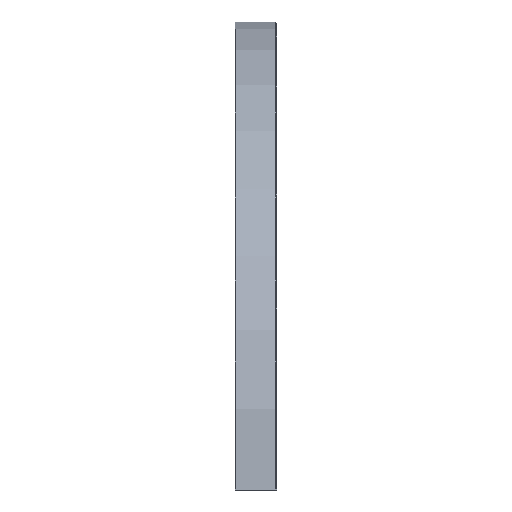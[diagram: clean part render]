
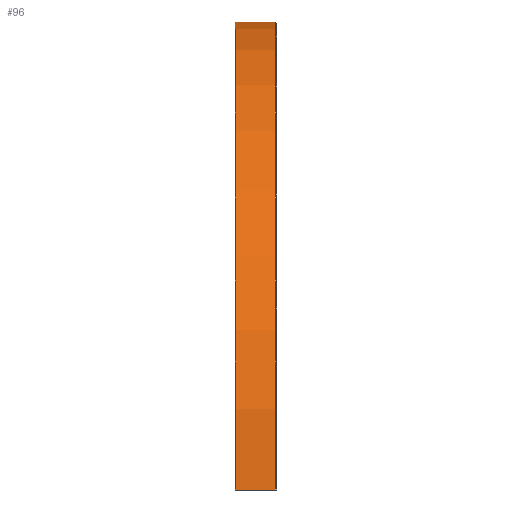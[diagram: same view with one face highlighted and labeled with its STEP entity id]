
A CAD part, left-side view. The second image highlights one B-rep face of the part: STEP entity #96.
In plain terms, the highlighted cylindrical face has radius 114.1 mm (diameter 228.2 mm), a partial arc.
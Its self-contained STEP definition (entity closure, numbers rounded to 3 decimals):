
#96=ADVANCED_FACE('',(#130),#131,.T.);
#130=FACE_OUTER_BOUND('',#202,.T.);
#131=CYLINDRICAL_SURFACE('',#203,114.1);
#202=EDGE_LOOP('',(#297,#298,#299,#300));
#203=AXIS2_PLACEMENT_3D('',#301,#302,#303);
#297=ORIENTED_EDGE('',*,*,#447,.F.);
#298=ORIENTED_EDGE('',*,*,#467,.T.);
#299=ORIENTED_EDGE('',*,*,#468,.F.);
#300=ORIENTED_EDGE('',*,*,#461,.T.);
#301=CARTESIAN_POINT('',(0.0,0.0,0.0));
#302=DIRECTION('',(0.0,-1.0,0.0));
#303=DIRECTION('',(0.0,0.0,-1.0));
#447=EDGE_CURVE('',#499,#501,#502,.F.);
#461=EDGE_CURVE('',#527,#501,#528,.T.);
#467=EDGE_CURVE('',#499,#538,#539,.F.);
#468=EDGE_CURVE('',#527,#538,#540,.T.);
#499=VERTEX_POINT('',#591);
#501=VERTEX_POINT('',#596);
#502=LINE('',#597,#598);
#527=VERTEX_POINT('',#650);
#528=CIRCLE('',#651,114.1);
#538=VERTEX_POINT('',#662);
#539=CIRCLE('',#663,114.1);
#540=LINE('',#664,#665);
#591=CARTESIAN_POINT('',(-114.096,0.4,1.0));
#596=CARTESIAN_POINT('',(-114.096,10.0,1.0));
#597=CARTESIAN_POINT('',(-114.096,0.0,1.0));
#598=VECTOR('',#736,1.0);
#650=CARTESIAN_POINT('',(114.096,10.0,1.0));
#651=AXIS2_PLACEMENT_3D('',#749,#750,#751);
#662=CARTESIAN_POINT('',(114.096,0.4,1.0));
#663=AXIS2_PLACEMENT_3D('',#765,#766,#767);
#664=CARTESIAN_POINT('',(114.096,0.0,1.0));
#665=VECTOR('',#768,1.0);
#736=DIRECTION('',(0.0,-1.0,0.0));
#749=CARTESIAN_POINT('',(0.0,10.0,0.0));
#750=DIRECTION('',(0.0,-1.0,0.0));
#751=DIRECTION('',(0.0,0.0,-1.0));
#765=CARTESIAN_POINT('',(0.0,0.4,0.0));
#766=DIRECTION('',(0.0,-1.0,0.0));
#767=DIRECTION('',(0.0,0.0,-1.0));
#768=DIRECTION('',(0.0,-1.0,0.0));
